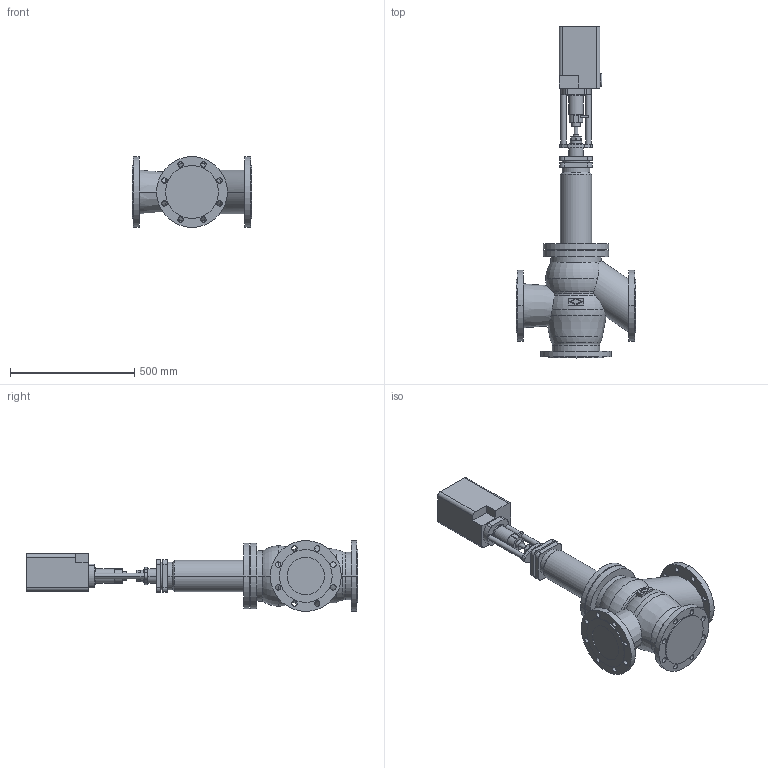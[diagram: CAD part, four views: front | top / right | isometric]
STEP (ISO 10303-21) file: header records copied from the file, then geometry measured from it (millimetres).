
FILE_DESCRIPTION(('OneSpaceDesigner STEP Export'),'2;1');
FILE_NAME('c000000424.stp','2007-01-26T13:15:14',(''),(''),'OneSpace Designer STEP processor for AP214 (Solid Model)','OneSpace Designer 14.00B 27-May-2006 (C) CoCreate Software GmbH','');
FILE_SCHEMA(('AUTOMOTIVE_DESIGN { 1 0 10303 214 1 1 1 1 }'));
Length unit declared in the file: millimetre
Products named in the file (2): 1; 2
Bounding box: 480 x 1336.2 x 285 mm (x, y, z)
Volume: 39639439.5 mm3; surface area: 1383645.1 mm2
Topology: 2 solids, 2 shells, 261 faces, 655 edges, 431 vertices
Faces by surface type: cylinder 130, plane 107, torus 18, cone 6
Entity records: 7401 total; most frequent: CARTESIAN_POINT 1487, ORIENTED_EDGE 1310, DIRECTION 1097, EDGE_CURVE 655, VERTEX_POINT 431, AXIS2_PLACEMENT_3D 397, EDGE_LOOP 342, VECTOR 303
